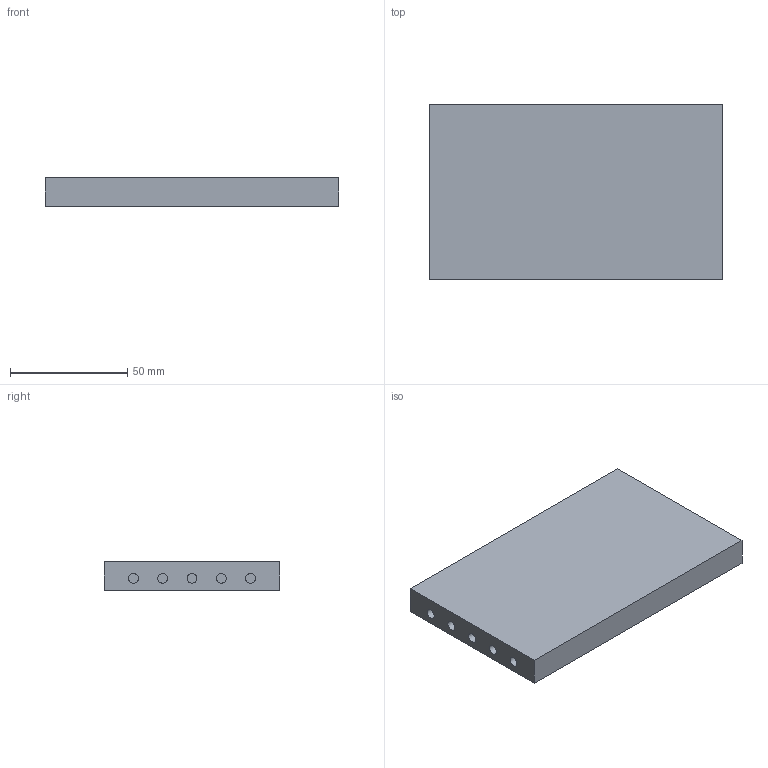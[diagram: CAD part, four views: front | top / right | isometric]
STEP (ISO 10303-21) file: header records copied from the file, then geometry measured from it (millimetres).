
FILE_DESCRIPTION(/* description */ (''),/* implementation_level */ '2;1');
FILE_NAME(/* name */ 'C:/Users/David Florian/Desktop/Cyber-Scooter-Step-Files/11-Board-Back.step',/* time_stamp */ '2020-12-14T22:18:23-06:00',/* author */ (''),/* organization */ (''),/* preprocessor_version */ 'ST-DEVELOPER v18.1',/* originating_system */ 'Autodesk Translation Framework v9.7.1.1290',/* authorisation */ '');
FILE_SCHEMA (('AUTOMOTIVE_DESIGN { 1 0 10303 214 3 1 1 }'));
Length unit declared in the file: millimetre
Products named in the file (1): Back-Plate-Base-Assembly
Bounding box: 125.5 x 75 x 12 mm (x, y, z)
Volume: 109486.4 mm3; surface area: 26935.7 mm2
Topology: 1 solids, 1 shells, 26 faces, 42 edges, 28 vertices
Faces by surface type: plane 16, cylinder 10
Full cylindrical faces by diameter (mm): 4.2 x10
Entity records: 639 total; most frequent: DIRECTION 116, CARTESIAN_POINT 97, ORIENTED_EDGE 84, AXIS2_PLACEMENT_3D 47, EDGE_CURVE 42, EDGE_LOOP 36, VERTEX_POINT 28, FACE_OUTER_BOUND 26
